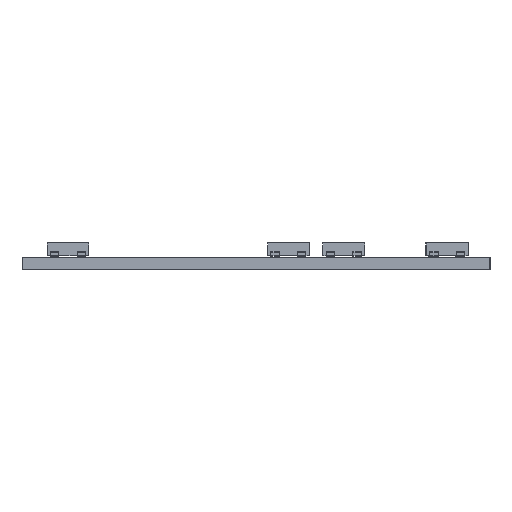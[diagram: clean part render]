
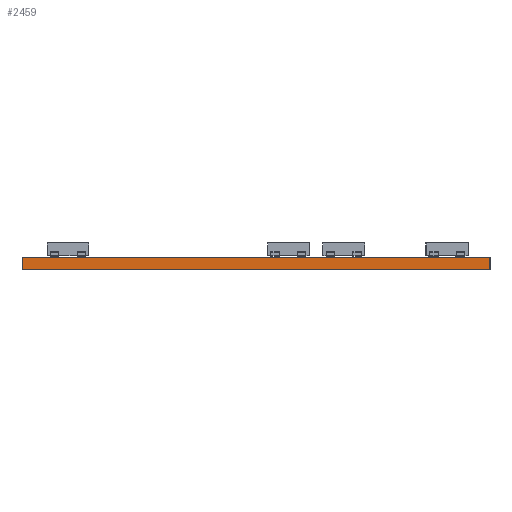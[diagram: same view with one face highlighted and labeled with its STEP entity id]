
A CAD part, left-side view. The second image highlights one B-rep face of the part: STEP entity #2459.
In plain terms, the highlighted planar face has unit normal (-1, 0, 0).
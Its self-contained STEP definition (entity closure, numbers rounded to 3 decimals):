
#2403 = VERTEX_POINT('',#2404);
#2404 = CARTESIAN_POINT('',(49.,-101.,1.51));
#2410 = EDGE_CURVE('',#2411,#2403,#2413,.T.);
#2411 = VERTEX_POINT('',#2412);
#2412 = CARTESIAN_POINT('',(49.,-101.,0.));
#2413 = LINE('',#2414,#2415);
#2414 = CARTESIAN_POINT('',(49.,-101.,0.));
#2415 = VECTOR('',#2416,1.);
#2416 = DIRECTION('',(0.,0.,1.));
#2459 = ADVANCED_FACE('',(#2460),#2485,.T.);
#2460 = FACE_BOUND('',#2461,.T.);
#2461 = EDGE_LOOP('',(#2462,#2463,#2471,#2479));
#2462 = ORIENTED_EDGE('',*,*,#2410,.T.);
#2463 = ORIENTED_EDGE('',*,*,#2464,.T.);
#2464 = EDGE_CURVE('',#2403,#2465,#2467,.T.);
#2465 = VERTEX_POINT('',#2466);
#2466 = CARTESIAN_POINT('',(49.,-45.,1.51));
#2467 = LINE('',#2468,#2469);
#2468 = CARTESIAN_POINT('',(49.,-101.,1.51));
#2469 = VECTOR('',#2470,1.);
#2470 = DIRECTION('',(0.,1.,0.));
#2471 = ORIENTED_EDGE('',*,*,#2472,.F.);
#2472 = EDGE_CURVE('',#2473,#2465,#2475,.T.);
#2473 = VERTEX_POINT('',#2474);
#2474 = CARTESIAN_POINT('',(49.,-45.,0.));
#2475 = LINE('',#2476,#2477);
#2476 = CARTESIAN_POINT('',(49.,-45.,0.));
#2477 = VECTOR('',#2478,1.);
#2478 = DIRECTION('',(0.,0.,1.));
#2479 = ORIENTED_EDGE('',*,*,#2480,.F.);
#2480 = EDGE_CURVE('',#2411,#2473,#2481,.T.);
#2481 = LINE('',#2482,#2483);
#2482 = CARTESIAN_POINT('',(49.,-101.,0.));
#2483 = VECTOR('',#2484,1.);
#2484 = DIRECTION('',(0.,1.,0.));
#2485 = PLANE('',#2486);
#2486 = AXIS2_PLACEMENT_3D('',#2487,#2488,#2489);
#2487 = CARTESIAN_POINT('',(49.,-101.,0.));
#2488 = DIRECTION('',(-1.,0.,0.));
#2489 = DIRECTION('',(0.,1.,0.));
